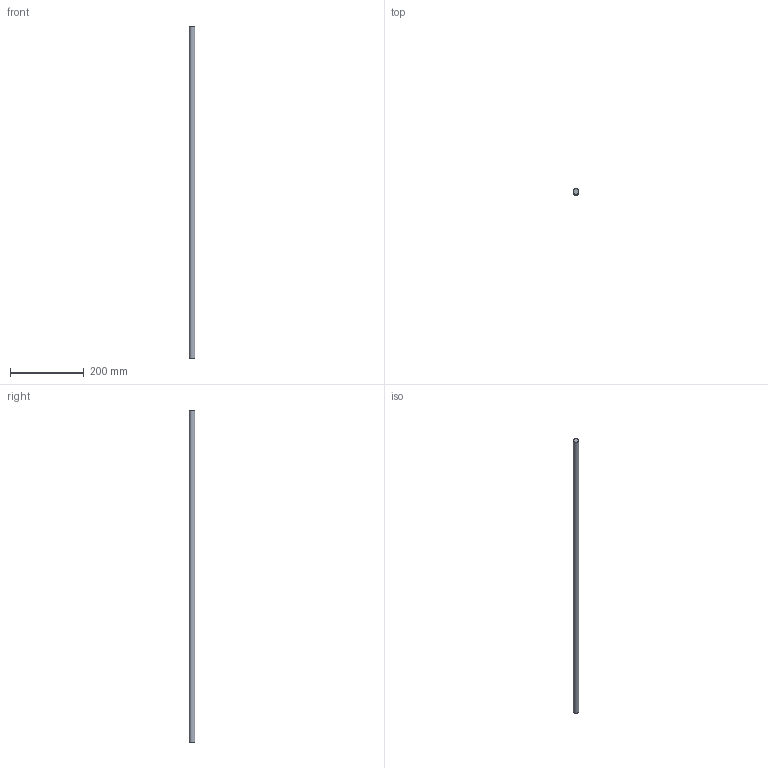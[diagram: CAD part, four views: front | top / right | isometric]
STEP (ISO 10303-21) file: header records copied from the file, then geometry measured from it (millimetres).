
FILE_DESCRIPTION(/* description */ (''),/* implementation_level */ '2;1');
FILE_NAME(/* name */ 'C:\Users\David\Desktop\stepFiles\Profilfuehrung\WF16x900.stp',/* time_stamp */ '2018-06-24T15:46:55+02:00',/* author */ ('David'),/* organization */ (''),/* preprocessor_version */ 'ST-DEVELOPER v17',/* originating_system */ 'Autodesk Inventor 2019',/* authorisation */ '');
FILE_SCHEMA (('AUTOMOTIVE_DESIGN { 1 0 10303 214 3 1 1 }'));
Length unit declared in the file: millimetre
Products named in the file (1): Wellenfuehrung
Bounding box: 16 x 16 x 900 mm (x, y, z)
Volume: 180955.7 mm3; surface area: 45641.1 mm2
Topology: 1 solids, 1 shells, 3 faces, 3 edges, 2 vertices
Faces by surface type: plane 2, cylinder 1
Full cylindrical faces by diameter (mm): 16 x1
Entity records: 98 total; most frequent: DIRECTION 13, CARTESIAN_POINT 9, ORIENTED_EDGE 6, AXIS2_PLACEMENT_3D 6, FACE_OUTER_BOUND 3, EDGE_LOOP 3, EDGE_CURVE 3, ADVANCED_FACE 3
